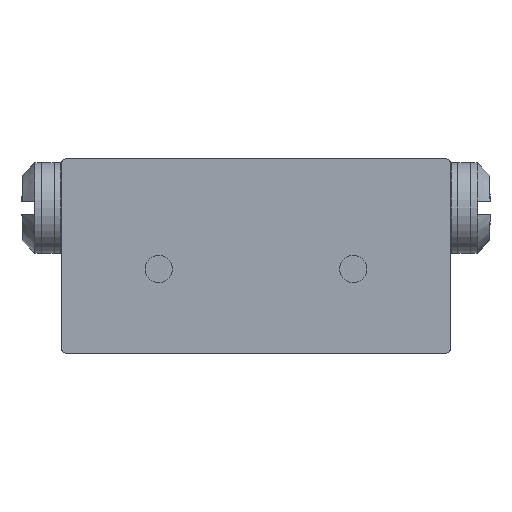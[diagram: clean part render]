
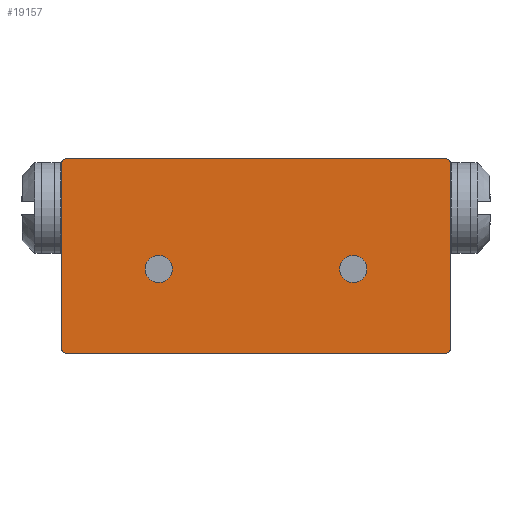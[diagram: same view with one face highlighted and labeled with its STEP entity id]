
A CAD part, front view. The second image highlights one B-rep face of the part: STEP entity #19157.
In plain terms, the highlighted planar face has unit normal (0, -1, 0).
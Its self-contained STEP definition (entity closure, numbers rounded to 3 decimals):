
#110 = CARTESIAN_POINT ( 'NONE',  ( 0.7, -165., 0.7 ) ) ;
#167 = CARTESIAN_POINT ( 'NONE',  ( 0., -165., 30. ) ) ;
#511 = DIRECTION ( 'NONE',  ( 0., -1., 0. ) ) ;
#1963 = PLANE ( 'NONE',  #2274 ) ;
#2274 = AXIS2_PLACEMENT_3D ( 'NONE', #167, #91418, #20549 ) ;
#2786 = CIRCLE ( 'NONE', #95110, 0.7 ) ;
#3042 = DIRECTION ( 'NONE',  ( 0., 0., -1. ) ) ;
#3878 = DIRECTION ( 'NONE',  ( 0., 0., -1. ) ) ;
#7327 = ORIENTED_EDGE ( 'NONE', *, *, #90936, .F. ) ;
#11506 = DIRECTION ( 'NONE',  ( 0., -1., 0. ) ) ;
#12043 = LINE ( 'NONE', #48634, #34378 ) ;
#12678 = CARTESIAN_POINT ( 'NONE',  ( 15., -165., 10.9 ) ) ;
#14197 = EDGE_CURVE ( 'NONE', #76901, #25770, #12043, .T. ) ;
#15723 = CIRCLE ( 'NONE', #63600, 2.1 ) ;
#16336 = CARTESIAN_POINT ( 'NONE',  ( 59.3, -165., 0.7 ) ) ;
#17874 = DIRECTION ( 'NONE',  ( 0., 0., -1. ) ) ;
#19157 = ADVANCED_FACE ( 'NONE', ( #101651, #56550, #63776 ), #1963, .F. ) ;
#20097 = ORIENTED_EDGE ( 'NONE', *, *, #117865, .T. ) ;
#20199 = DIRECTION ( 'NONE',  ( 0., -1., 0. ) ) ;
#20549 = DIRECTION ( 'NONE',  ( 0., 0., 1. ) ) ;
#22771 = VERTEX_POINT ( 'NONE', #27433 ) ;
#22880 = DIRECTION ( 'NONE',  ( 0., 0., -1. ) ) ;
#25770 = VERTEX_POINT ( 'NONE', #116716 ) ;
#27001 = VECTOR ( 'NONE', #118760, 1000. ) ;
#27326 = ORIENTED_EDGE ( 'NONE', *, *, #78073, .F. ) ;
#27433 = CARTESIAN_POINT ( 'NONE',  ( 60., -165., 0.7 ) ) ;
#28736 = AXIS2_PLACEMENT_3D ( 'NONE', #57893, #94563, #3878 ) ;
#30472 = CIRCLE ( 'NONE', #103386, 0.7 ) ;
#30644 = DIRECTION ( 'NONE',  ( 0., -1., 0. ) ) ;
#31666 = VERTEX_POINT ( 'NONE', #31897 ) ;
#31897 = CARTESIAN_POINT ( 'NONE',  ( 0.7, -165., 0. ) ) ;
#34378 = VECTOR ( 'NONE', #86462, 1000. ) ;
#34992 = VECTOR ( 'NONE', #45300, 1000. ) ;
#35130 = EDGE_CURVE ( 'NONE', #114139, #76901, #30472, .T. ) ;
#38177 = CIRCLE ( 'NONE', #68875, 0.7 ) ;
#39241 = ORIENTED_EDGE ( 'NONE', *, *, #14197, .T. ) ;
#39799 = EDGE_CURVE ( 'NONE', #25770, #31666, #2786, .T. ) ;
#39854 = CARTESIAN_POINT ( 'NONE',  ( 59.3, -165., 0. ) ) ;
#42495 = AXIS2_PLACEMENT_3D ( 'NONE', #56086, #92757, #47074 ) ;
#42972 = EDGE_LOOP ( 'NONE', ( #39241, #75695, #20097, #80816, #77816, #45041, #27326, #46309 ) ) ;
#43605 = EDGE_CURVE ( 'NONE', #110614, #52079, #95265, .T. ) ;
#44301 = LINE ( 'NONE', #100760, #82086 ) ;
#45041 = ORIENTED_EDGE ( 'NONE', *, *, #43605, .T. ) ;
#45300 = DIRECTION ( 'NONE',  ( 1., 0., 0. ) ) ;
#45911 = CARTESIAN_POINT ( 'NONE',  ( 0.7, -165., 30. ) ) ;
#46309 = ORIENTED_EDGE ( 'NONE', *, *, #35130, .T. ) ;
#46934 = EDGE_CURVE ( 'NONE', #110614, #22771, #44301, .T. ) ;
#47074 = DIRECTION ( 'NONE',  ( 0., 0., -1. ) ) ;
#48634 = CARTESIAN_POINT ( 'NONE',  ( 0., -165., 30. ) ) ;
#52079 = VERTEX_POINT ( 'NONE', #109910 ) ;
#55752 = EDGE_LOOP ( 'NONE', ( #79200, #70350 ) ) ;
#56086 = CARTESIAN_POINT ( 'NONE',  ( 15., -165., 13. ) ) ;
#56550 = FACE_BOUND ( 'NONE', #77543, .T. ) ;
#56797 = DIRECTION ( 'NONE',  ( 0., 0., 1. ) ) ;
#57788 = EDGE_CURVE ( 'NONE', #117550, #74916, #78933, .T. ) ;
#57893 = CARTESIAN_POINT ( 'NONE',  ( 45., -165., 13. ) ) ;
#58142 = EDGE_CURVE ( 'NONE', #74916, #117550, #105884, .T. ) ;
#58779 = CARTESIAN_POINT ( 'NONE',  ( 60., -165., 29.3 ) ) ;
#63600 = AXIS2_PLACEMENT_3D ( 'NONE', #78118, #105170, #22880 ) ;
#63776 = FACE_OUTER_BOUND ( 'NONE', #42972, .T. ) ;
#65325 = CARTESIAN_POINT ( 'NONE',  ( 59.3, -165., 29.3 ) ) ;
#68875 = AXIS2_PLACEMENT_3D ( 'NONE', #16336, #116049, #70385 ) ;
#70284 = AXIS2_PLACEMENT_3D ( 'NONE', #65325, #511, #73742 ) ;
#70301 = CARTESIAN_POINT ( 'NONE',  ( 15., -165., 15.1 ) ) ;
#70350 = ORIENTED_EDGE ( 'NONE', *, *, #57788, .F. ) ;
#70385 = DIRECTION ( 'NONE',  ( 0., 0., 1. ) ) ;
#73742 = DIRECTION ( 'NONE',  ( 0., 0., 1. ) ) ;
#74916 = VERTEX_POINT ( 'NONE', #12678 ) ;
#75695 = ORIENTED_EDGE ( 'NONE', *, *, #39799, .T. ) ;
#75948 = CARTESIAN_POINT ( 'NONE',  ( 45., -165., 15.1 ) ) ;
#76901 = VERTEX_POINT ( 'NONE', #92620 ) ;
#77543 = EDGE_LOOP ( 'NONE', ( #7327, #92387 ) ) ;
#77816 = ORIENTED_EDGE ( 'NONE', *, *, #46934, .F. ) ;
#78073 = EDGE_CURVE ( 'NONE', #114139, #52079, #101803, .T. ) ;
#78118 = CARTESIAN_POINT ( 'NONE',  ( 45., -165., 13. ) ) ;
#78210 = VERTEX_POINT ( 'NONE', #75948 ) ;
#78933 = CIRCLE ( 'NONE', #42495, 2.1 ) ;
#79200 = ORIENTED_EDGE ( 'NONE', *, *, #58142, .F. ) ;
#80816 = ORIENTED_EDGE ( 'NONE', *, *, #86642, .T. ) ;
#82086 = VECTOR ( 'NONE', #17874, 1000. ) ;
#83306 = CARTESIAN_POINT ( 'NONE',  ( 0., -165., 0. ) ) ;
#85331 = DIRECTION ( 'NONE',  ( 0., 0., 1. ) ) ;
#86462 = DIRECTION ( 'NONE',  ( 0., 0., -1. ) ) ;
#86642 = EDGE_CURVE ( 'NONE', #100143, #22771, #38177, .T. ) ;
#90936 = EDGE_CURVE ( 'NONE', #106139, #78210, #113215, .T. ) ;
#91418 = DIRECTION ( 'NONE',  ( 0., 1., 0. ) ) ;
#92195 = CARTESIAN_POINT ( 'NONE',  ( 0., -165., 30. ) ) ;
#92387 = ORIENTED_EDGE ( 'NONE', *, *, #94472, .F. ) ;
#92405 = AXIS2_PLACEMENT_3D ( 'NONE', #94911, #30644, #3042 ) ;
#92620 = CARTESIAN_POINT ( 'NONE',  ( 0., -165., 29.3 ) ) ;
#92757 = DIRECTION ( 'NONE',  ( 0., -1., 0. ) ) ;
#94472 = EDGE_CURVE ( 'NONE', #78210, #106139, #15723, .T. ) ;
#94563 = DIRECTION ( 'NONE',  ( 0., -1., 0. ) ) ;
#94911 = CARTESIAN_POINT ( 'NONE',  ( 15., -165., 13. ) ) ;
#95110 = AXIS2_PLACEMENT_3D ( 'NONE', #110, #11506, #85331 ) ;
#95265 = CIRCLE ( 'NONE', #70284, 0.7 ) ;
#100143 = VERTEX_POINT ( 'NONE', #39854 ) ;
#100760 = CARTESIAN_POINT ( 'NONE',  ( 60., -165., 30. ) ) ;
#101651 = FACE_BOUND ( 'NONE', #55752, .T. ) ;
#101803 = LINE ( 'NONE', #92195, #34992 ) ;
#102498 = CARTESIAN_POINT ( 'NONE',  ( 0.7, -165., 29.3 ) ) ;
#103386 = AXIS2_PLACEMENT_3D ( 'NONE', #102498, #20199, #56797 ) ;
#105170 = DIRECTION ( 'NONE',  ( 0., -1., 0. ) ) ;
#105884 = CIRCLE ( 'NONE', #92405, 2.1 ) ;
#106139 = VERTEX_POINT ( 'NONE', #110545 ) ;
#109910 = CARTESIAN_POINT ( 'NONE',  ( 59.3, -165., 30. ) ) ;
#110545 = CARTESIAN_POINT ( 'NONE',  ( 45., -165., 10.9 ) ) ;
#110614 = VERTEX_POINT ( 'NONE', #58779 ) ;
#110941 = LINE ( 'NONE', #83306, #27001 ) ;
#113215 = CIRCLE ( 'NONE', #28736, 2.1 ) ;
#114139 = VERTEX_POINT ( 'NONE', #45911 ) ;
#116049 = DIRECTION ( 'NONE',  ( 0., -1., 0. ) ) ;
#116716 = CARTESIAN_POINT ( 'NONE',  ( 0., -165., 0.7 ) ) ;
#117550 = VERTEX_POINT ( 'NONE', #70301 ) ;
#117865 = EDGE_CURVE ( 'NONE', #31666, #100143, #110941, .T. ) ;
#118760 = DIRECTION ( 'NONE',  ( 1., 0., 0. ) ) ;
